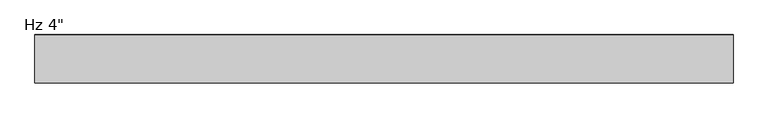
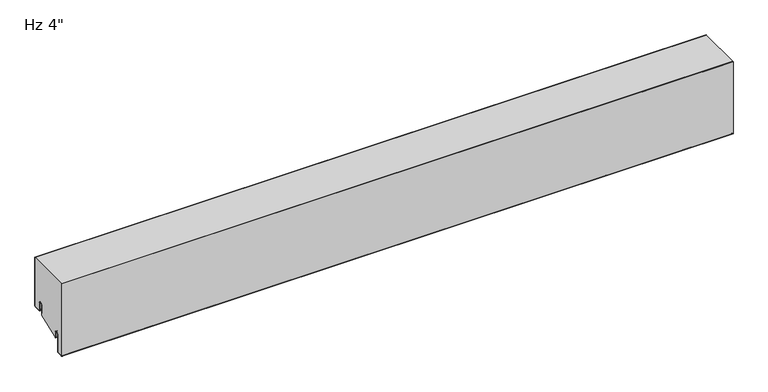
"""IFC4 building model written with IfcOpenShell, lengths in millimetres: plate geometry."""

from ifc_helpers import new_model, si_unit, point, frame, frame_2d, origin, place, context, project, spatial, polyline, circle_curve, trimmed, segment, composite_curve, outline, extrude, source, transform, mapped, element, save


def plate_7c34b83b(model_context):
    return source(origin(), model_context, "Body", "SweptSolid", [
        extrude(outline(composite_curve([segment(trimmed(circle_curve(frame_2d((-21.43125, 19.05)), 4.96875), [point((-16.4625, 19.05))], [point((-26.4, 19.05))], True, "CARTESIAN"), True, "CONTINUOUS"), segment(polyline([(-26.4, 19.05), (-26.4, -3.1323422), (-74.6157227, -23.01875), (-76.2, -23.01875), (-76.2, -13.5080174), (-76.99375, -13.5080174), (-76.7875, -11.9205174)]), True, "CONTINUOUS"), segment(trimmed(circle_curve(frame_2d((-81.75625, -11.9205174)), 4.96875), [point((-76.7875, -11.9205174))], [point((-86.725, -11.9205174))], True, "CARTESIAN"), True, "CONTINUOUS"), segment(polyline([(-86.725, -11.9205174), (-86.725, -50.1038221)]), True, "CONTINUOUS"), segment(trimmed(circle_curve(frame_2d((-88.10625, -50.1038221)), 1.38125), [point((-86.725, -50.1038221))], [point((-88.033961, -51.4831791))], False, "CARTESIAN"), True, "CONTINUOUS"), segment(polyline([(-88.033961, -51.4831791), (-99.146461, -52.0655606)]), True, "CONTINUOUS"), segment(trimmed(circle_curve(frame_2d((-99.21875, -50.6862035)), 1.38125), [point((-99.146461, -52.0655606))], [point((-100.6, -50.6862035))], False, "CARTESIAN"), True, "CONTINUOUS"), segment(polyline([(-100.6, -50.6862035), (-100.6, 114.0), (-1.0, 114.0), (-1.0, 3.175)]), True, "CONTINUOUS"), segment(trimmed(circle_curve(frame_2d((-2.38125, 3.175)), 1.38125), [point((-1.0, 3.175))], [point((-2.38125, 1.79375))], False, "CARTESIAN"), True, "CONTINUOUS"), segment(polyline([(-2.38125, 1.79375), (-15.08125, 1.79375)]), True, "CONTINUOUS"), segment(trimmed(circle_curve(frame_2d((-15.08125, 3.175)), 1.38125), [point((-15.08125, 1.79375))], [point((-16.4625, 3.175))], False, "CARTESIAN"), True, "CONTINUOUS"), segment(polyline([(-16.4625, 3.175), (-16.4625, 19.05)]), True, "CONTINUOUS")], self_intersect=False)), frame((-730.0, 0.0, 0.0), z_axis=(1.0, 0.0, 0.0), x_axis=(0.0, 1.0, 0.0)), (0.0, 0.0, 1.0), 1460.0),
        extrude(outline(composite_curve([segment(polyline([(-25.4, 0.79375), (-26.4, 0.79375), (-26.4, 19.05)]), True, "CONTINUOUS"), segment(trimmed(circle_curve(frame_2d((-21.43125, 19.05)), 4.96875), [point((-26.4, 19.05))], [point((-16.4625, 19.05))], False, "CARTESIAN"), True, "CONTINUOUS"), segment(polyline([(-16.4625, 19.05), (-16.4625, 3.175)]), True, "CONTINUOUS"), segment(trimmed(circle_curve(frame_2d((-15.08125, 3.175)), 1.38125), [point((-16.4625, 3.175))], [point((-15.08125, 1.79375))], True, "CARTESIAN"), True, "CONTINUOUS"), segment(polyline([(-15.08125, 1.79375), (-2.38125, 1.79375)]), True, "CONTINUOUS"), segment(trimmed(circle_curve(frame_2d((-2.38125, 3.175)), 1.38125), [point((-2.38125, 1.79375))], [point((-1.0, 3.175))], True, "CARTESIAN"), True, "CONTINUOUS"), segment(polyline([(-1.0, 3.175), (-1.0, 114.0), (0.0, 114.0), (0.0, 3.175)]), True, "CONTINUOUS"), segment(trimmed(circle_curve(frame_2d((-2.38125, 3.175)), 2.38125), [point((0.0, 3.175))], [point((-2.38125, 0.79375))], False, "CARTESIAN"), True, "CONTINUOUS"), segment(polyline([(-2.38125, 0.79375), (-15.08125, 0.79375)]), True, "CONTINUOUS"), segment(trimmed(circle_curve(frame_2d((-15.08125, 3.175)), 2.38125), [point((-15.08125, 0.79375))], [point((-17.4625, 3.175))], False, "CARTESIAN"), True, "CONTINUOUS"), segment(polyline([(-17.4625, 3.175), (-17.4625, 19.05)]), True, "CONTINUOUS"), segment(trimmed(circle_curve(frame_2d((-21.43125, 19.05)), 3.96875), [point((-17.4625, 19.05))], [point((-25.4, 19.05))], True, "CARTESIAN"), True, "CONTINUOUS"), segment(polyline([(-25.4, 19.05), (-25.4, 0.79375)]), True, "CONTINUOUS")], self_intersect=False)), frame((-730.0, 0.0, 0.0), z_axis=(1.0, 0.0, 0.0), x_axis=(0.0, 1.0, 0.0)), (0.0, 0.0, 1.0), 1460.0),
        extrude(outline(composite_curve([segment(trimmed(circle_curve(frame_2d((-76.99375, -23.2314549)), 0.79375), [point((-76.2, -23.2314549))], [point((-77.7875, -23.2314549))], False, "CARTESIAN"), True, "CONTINUOUS"), segment(polyline([(-77.7875, -23.2314549), (-77.7875, -11.9205174)]), True, "CONTINUOUS"), segment(trimmed(circle_curve(frame_2d((-81.75625, -11.9205174)), 3.96875), [point((-77.7875, -11.9205174))], [point((-85.725, -11.9205174))], True, "CARTESIAN"), True, "CONTINUOUS"), segment(polyline([(-85.725, -11.9205174), (-85.725, -50.1038221)]), True, "CONTINUOUS"), segment(trimmed(circle_curve(frame_2d((-88.10625, -50.1038221)), 2.38125), [point((-85.725, -50.1038221))], [point((-87.981625, -52.4818086))], False, "CARTESIAN"), True, "CONTINUOUS"), segment(polyline([(-87.981625, -52.4818086), (-99.094125, -53.0641901)]), True, "CONTINUOUS"), segment(trimmed(circle_curve(frame_2d((-99.21875, -50.6862035)), 2.38125), [point((-99.094125, -53.0641901))], [point((-101.6, -50.6862035))], False, "CARTESIAN"), True, "CONTINUOUS"), segment(polyline([(-101.6, -50.6862035), (-101.6, 114.0), (-100.6, 114.0), (-100.6, -50.6862035)]), True, "CONTINUOUS"), segment(trimmed(circle_curve(frame_2d((-99.21875, -50.6862035)), 1.38125), [point((-100.6, -50.6862035))], [point((-99.146461, -52.0655606))], True, "CARTESIAN"), True, "CONTINUOUS"), segment(polyline([(-99.146461, -52.0655606), (-88.033961, -51.4831791)]), True, "CONTINUOUS"), segment(trimmed(circle_curve(frame_2d((-88.10625, -50.1038221)), 1.38125), [point((-88.033961, -51.4831791))], [point((-86.725, -50.1038221))], True, "CARTESIAN"), True, "CONTINUOUS"), segment(polyline([(-86.725, -50.1038221), (-86.725, -11.9205174)]), True, "CONTINUOUS"), segment(trimmed(circle_curve(frame_2d((-81.75625, -11.9205174)), 4.96875), [point((-86.725, -11.9205174))], [point((-76.7875, -11.9205174))], False, "CARTESIAN"), True, "CONTINUOUS"), segment(polyline([(-76.7875, -11.9205174), (-76.99375, -13.5080174), (-76.2, -13.5080174), (-76.2, -23.2314549)]), True, "CONTINUOUS")], self_intersect=False)), frame((-730.0, 0.0, 0.0), z_axis=(1.0, 0.0, 0.0), x_axis=(0.0, 1.0, 0.0)), (0.0, 0.0, 1.0), 1460.0),
    ])


if __name__ == "__main__":
    model = new_model("IFC4")
    model_context = context("Model", 3, world=origin())
    ifc_project = project(units=[si_unit("LENGTHUNIT", "METRE", prefix="MILLI")], contexts=[model_context])
    site = spatial("IfcSite", under=ifc_project)
    building = spatial("IfcBuilding", under=site)
    placement = place(None, origin())
    plate_shape = plate_7c34b83b(model_context)
    element("IfcPlate", 1, ObjectType="KIP-30-DWHR-R19-CP-Hz-F : Hz 4\"", at=placement, inside=building, context=model_context, shape_type="MappedRepresentation", body=[
        mapped(plate_shape, transform((0.0, 0.0, 0.0), x_axis=(1.0, 0.0, 0.0), y_axis=(0.0, 1.0, 0.0), z_axis=(0.0, 0.0, 1.0))),
    ])
    save(model, "model.ifc")
